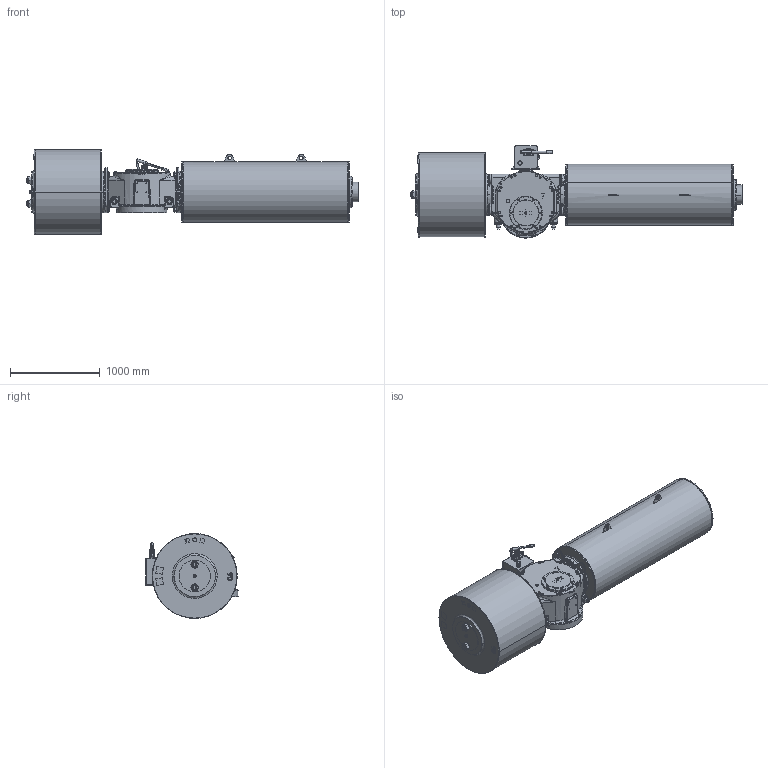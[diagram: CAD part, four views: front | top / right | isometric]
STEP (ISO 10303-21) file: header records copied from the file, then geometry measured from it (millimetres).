
FILE_DESCRIPTION (( 'STEP AP203' ), '1' );
FILE_NAME ('VTS7-900-SR-MH-FC.STEP', '2023-01-01T10:15:02', ( '' ), ( '' ), 'SwSTEP 2.0', 'SolidWorks 2020', '' );
FILE_SCHEMA (( 'CONFIG_CONTROL_DESIGN' ));
Length unit declared in the file: millimetre
Products named in the file (1): VTS7-900-SR-MH-FC
Bounding box: 3702 x 1027 x 947 mm (x, y, z)
Volume: 1426560761.2 mm3; surface area: 13493802.6 mm2
Topology: 42 solids, 44 shells, 3862 faces, 9392 edges, 5759 vertices
Faces by surface type: cylinder 1327, plane 1258, cone 872, bspline 382, torus 23
Entity records: 141375 total; most frequent: CARTESIAN_POINT 52804, DIRECTION 18740, ORIENTED_EDGE 18484, EDGE_CURVE 9242, AXIS2_PLACEMENT_3D 7525, VERTEX_POINT 5759, EDGE_LOOP 4275, CIRCLE 4044
